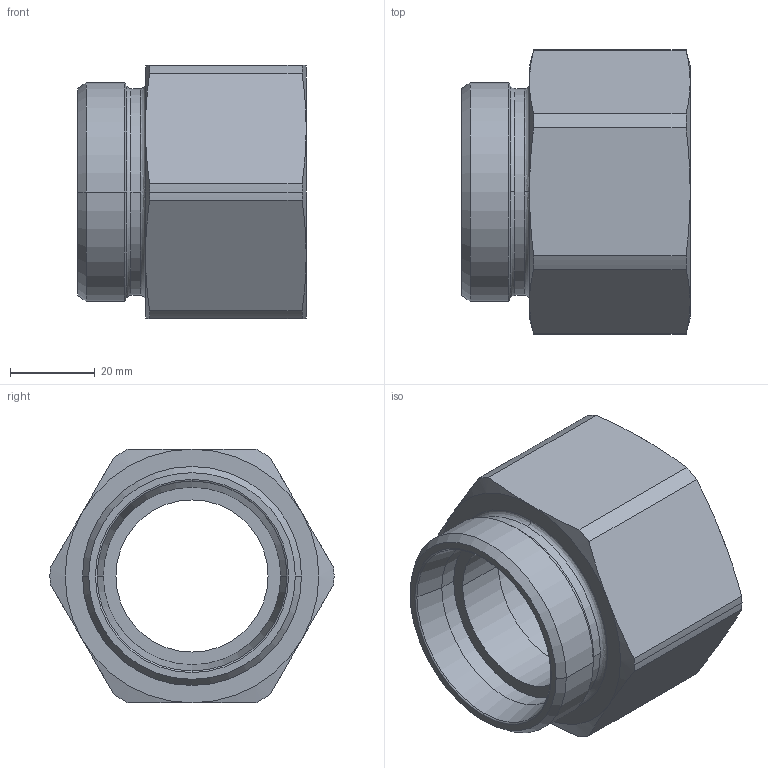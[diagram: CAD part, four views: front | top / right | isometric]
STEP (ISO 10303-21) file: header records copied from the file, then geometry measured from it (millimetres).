
FILE_DESCRIPTION((''),'2;1');
FILE_NAME('100713.stp','2007-10-30T15:10:36',(''),(''),'AutoCAD STEP 2000i','AutoCAD 2000i',', , ');
FILE_SCHEMA(('CONFIG_CONTROL_DESIGN'));
Length unit declared in the file: millimetre
Products named in the file (2): 100713.0; CHIAVE SMUSSATA#0
Assembly tree (1 placements, depth 2):
  100713.0
    CHIAVE SMUSSATA#0
Bounding box: 54 x 67.2 x 60 mm (x, y, z)
Volume: 73074.4 mm3; surface area: 21094.8 mm2
Topology: 1 solids, 1 shells, 56 faces, 134 edges, 82 vertices
Faces by surface type: cone 22, cylinder 18, plane 10, bspline 4, torus 2
Entity records: 1887 total; most frequent: CARTESIAN_POINT 498, DIRECTION 294, ORIENTED_EDGE 268, EDGE_CURVE 134, AXIS2_PLACEMENT_3D 130, VERTEX_POINT 82, CIRCLE 76, EDGE_LOOP 60
